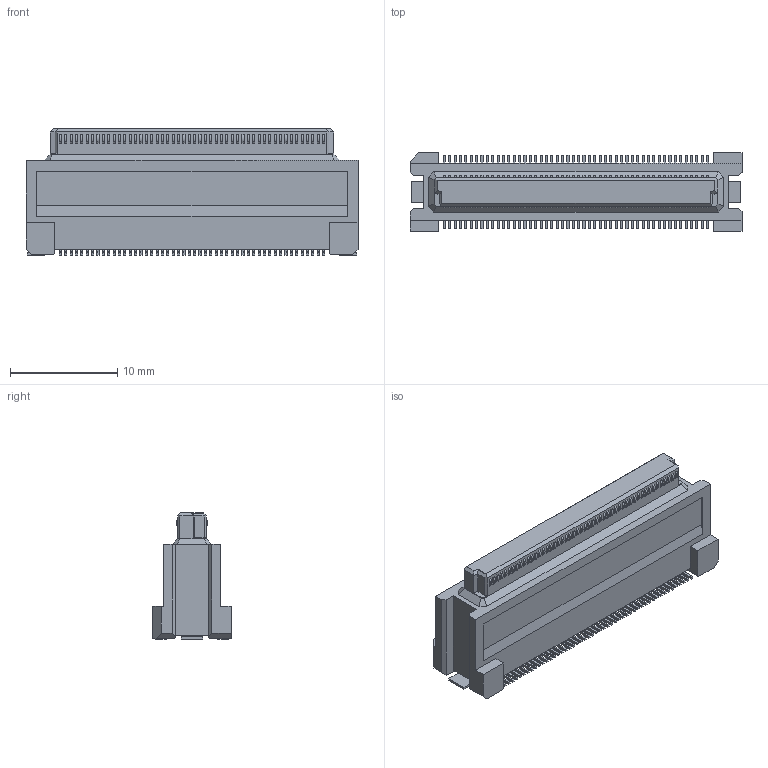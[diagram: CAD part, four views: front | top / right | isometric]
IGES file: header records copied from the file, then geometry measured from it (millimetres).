
Start section: Elysium IGES Interface
Global section: file name: C:\Users\1354\Desktop\DY10-100FS-3.igs; native system: Creo Elements/Direct Modeling 19.0F  14-Feb-2017; preprocessor: Creo Element/Direct IGES_3D V2.2; author: Unknown; organization: Unknown; date: 20171128.093639; units: millimetre
Bounding box: 30.9 x 7.3 x 11.73 mm (x, y, z)
Volume: 1420.8 mm3; surface area: 1356.9 mm2
Topology: 1 solids, 1 shells, 1450 faces, 3993 edges, 2650 vertices
Faces by surface type: bspline 1450
